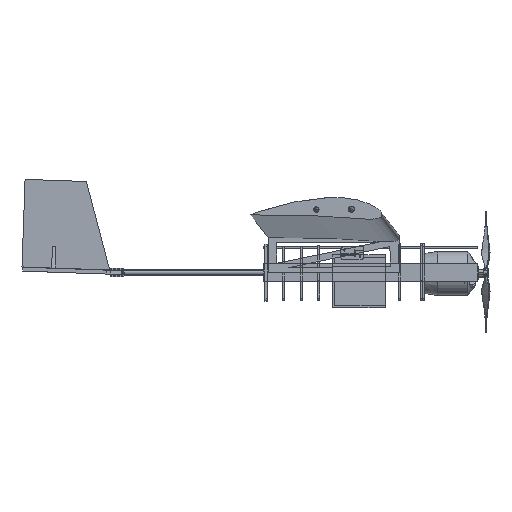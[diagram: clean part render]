
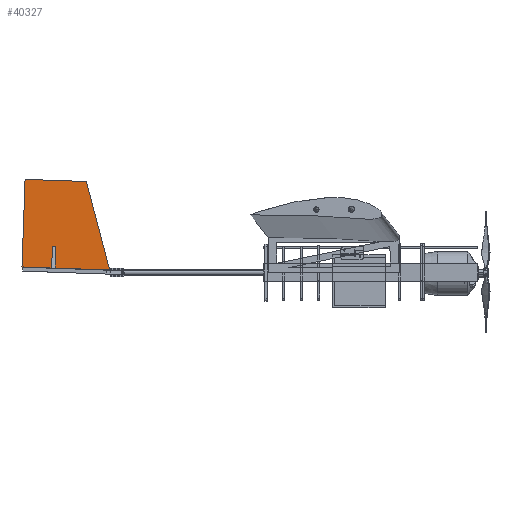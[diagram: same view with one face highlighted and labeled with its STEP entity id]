
A CAD part, front view. The second image highlights one B-rep face of the part: STEP entity #40327.
In plain terms, the highlighted planar face has unit normal (0, -1, 0) as drawn and (0, 1, 0) by its records, which use the part's own axes.
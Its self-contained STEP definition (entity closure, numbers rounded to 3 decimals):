
#7542=FACE_OUTER_BOUND('',#10092,.T.);
#10092=EDGE_LOOP('',(#37113,#37114,#37115,#37116,#37117,#37118,#37119,#37120));
#12917=LINE('',#94250,#15768);
#12918=LINE('',#94255,#15769);
#12919=LINE('',#94258,#15770);
#12923=LINE('',#94265,#15774);
#12924=LINE('',#94268,#15775);
#12928=LINE('',#94276,#15779);
#12931=LINE('',#94282,#15782);
#12934=LINE('',#94286,#15785);
#15768=VECTOR('',#57399,10.);
#15769=VECTOR('',#57404,10.);
#15770=VECTOR('',#57409,10.);
#15774=VECTOR('',#57415,10.);
#15775=VECTOR('',#57418,10.);
#15779=VECTOR('',#57424,10.);
#15782=VECTOR('',#57429,10.);
#15785=VECTOR('',#57434,10.);
#19475=VERTEX_POINT('',#94246);
#19476=VERTEX_POINT('',#94248);
#19477=VERTEX_POINT('',#94252);
#19478=VERTEX_POINT('',#94254);
#19480=VERTEX_POINT('',#94263);
#19481=VERTEX_POINT('',#94267);
#19484=VERTEX_POINT('',#94275);
#19486=VERTEX_POINT('',#94281);
#25354=EDGE_CURVE('',#19475,#19476,#12917,.T.);
#25356=EDGE_CURVE('',#19477,#19478,#12918,.T.);
#25358=EDGE_CURVE('',#19478,#19476,#12919,.T.);
#25362=EDGE_CURVE('',#19477,#19480,#12923,.T.);
#25363=EDGE_CURVE('',#19481,#19475,#12924,.T.);
#25367=EDGE_CURVE('',#19484,#19481,#12928,.T.);
#25370=EDGE_CURVE('',#19486,#19484,#12931,.T.);
#25373=EDGE_CURVE('',#19480,#19486,#12934,.T.);
#37113=ORIENTED_EDGE('',*,*,#25363,.T.);
#37114=ORIENTED_EDGE('',*,*,#25354,.T.);
#37115=ORIENTED_EDGE('',*,*,#25358,.F.);
#37116=ORIENTED_EDGE('',*,*,#25356,.F.);
#37117=ORIENTED_EDGE('',*,*,#25362,.T.);
#37118=ORIENTED_EDGE('',*,*,#25373,.T.);
#37119=ORIENTED_EDGE('',*,*,#25370,.T.);
#37120=ORIENTED_EDGE('',*,*,#25367,.T.);
#37985=PLANE('',#45367);
#40327=ADVANCED_FACE('',(#7542),#37985,.T.);
#45367=AXIS2_PLACEMENT_3D('',#94287,#57435,#57436);
#57399=DIRECTION('',(0.,0.,-1.));
#57404=DIRECTION('',(0.,0.,-1.));
#57409=DIRECTION('',(1.,0.,0.));
#57415=DIRECTION('',(-1.,0.,0.));
#57418=DIRECTION('',(-1.,0.,0.));
#57424=DIRECTION('',(0.,0.,-1.));
#57429=DIRECTION('',(1.,0.,0.));
#57434=DIRECTION('',(0.287,0.,0.958));
#57435=DIRECTION('center_axis',(0.,1.,0.));
#57436=DIRECTION('ref_axis',(0.,0.,1.));
#94246=CARTESIAN_POINT('',(-61.,9.,0.));
#94248=CARTESIAN_POINT('',(-61.,9.,-10.));
#94250=CARTESIAN_POINT('',(-61.,9.,0.));
#94252=CARTESIAN_POINT('',(-99.,9.,0.));
#94254=CARTESIAN_POINT('',(-99.,9.,-10.));
#94255=CARTESIAN_POINT('',(-99.,9.,0.));
#94258=CARTESIAN_POINT('',(-61.,9.,-10.));
#94263=CARTESIAN_POINT('',(-198.25,9.,0.));
#94265=CARTESIAN_POINT('',(-198.25,9.,0.));
#94267=CARTESIAN_POINT('',(1.75,9.,0.));
#94268=CARTESIAN_POINT('',(-198.25,9.,0.));
#94275=CARTESIAN_POINT('',(1.75,9.,200.));
#94276=CARTESIAN_POINT('',(1.75,9.,0.));
#94281=CARTESIAN_POINT('',(-138.25,9.,200.));
#94282=CARTESIAN_POINT('',(1.75,9.,200.));
#94286=CARTESIAN_POINT('',(-138.25,9.,200.));
#94287=CARTESIAN_POINT('Origin',(-98.25,9.,100.));
